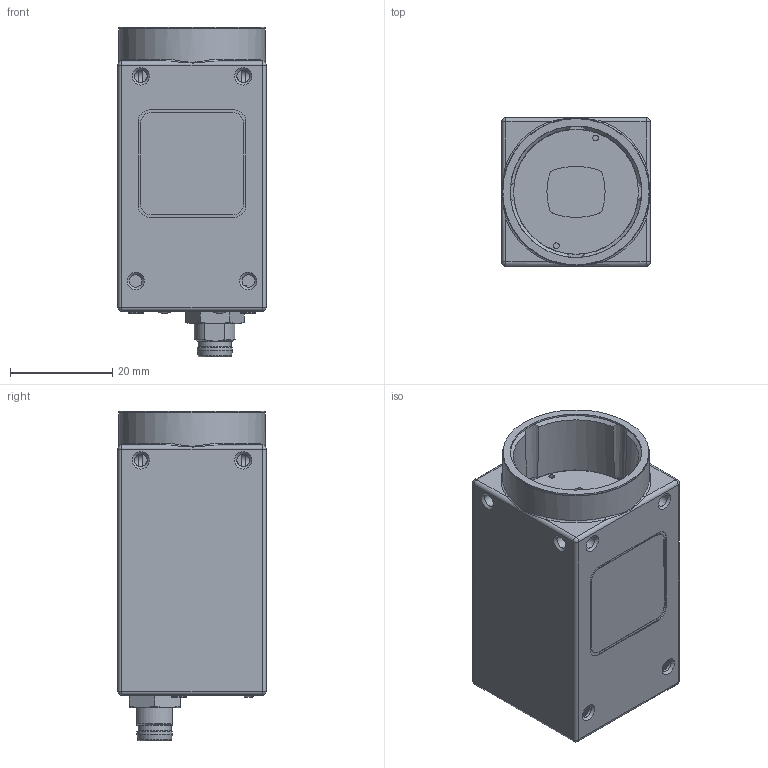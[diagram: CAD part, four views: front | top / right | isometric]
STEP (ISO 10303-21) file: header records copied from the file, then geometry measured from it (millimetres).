
FILE_DESCRIPTION( ( 'Unknown' ), '1' );
FILE_NAME( 'C:/Users/rih/Desktop/11175752_VCXG-15C.R.stp', 'Unknown', ( 'Unknown' ), ( 'Unknown' ), 'PSStep 19.0.9', 'Unknown', ' ' );
FILE_SCHEMA( ( 'AUTOMOTIVE_DESIGN { 1 0 10303 214 1 1 1 1 }' ) );
Length unit declared in the file: millimetre
Products named in the file (7): 11080147
Bounding box: 29 x 29 x 64.4 mm (x, y, z)
Volume: 13558.6 mm3; surface area: 22955.7 mm2
Topology: 7 solids, 12 shells, 2228 faces, 5948 edges, 3856 vertices
Faces by surface type: plane 1294, cylinder 717, cone 72, torus 53, sphere 48, bspline 36, extrusion 8
Full cylindrical faces by diameter (mm): 0.217 x1, 0.6 x143, 1.1 x2, 1.4 x4, 1.567 x2, 1.6 x2, 1.9 x4, 2.459 x10, 3 x4, 6.5 x1, 6.9 x1, 8.4 x1, 9 x1, 9.4 x1, 19 x1, 24.4 x1, 25.7 x1, 26 x1, 28.6 x1, 28.7 x1
Entity records: 87897 total; most frequent: CARTESIAN_POINT 16189, DIRECTION 11057, ORIENTED_EDGE 10972, EDGE_CURVE 5486, AXIS2_PLACEMENT_3D 3809, VERTEX_POINT 3659, VECTOR 3439, LINE 3431
